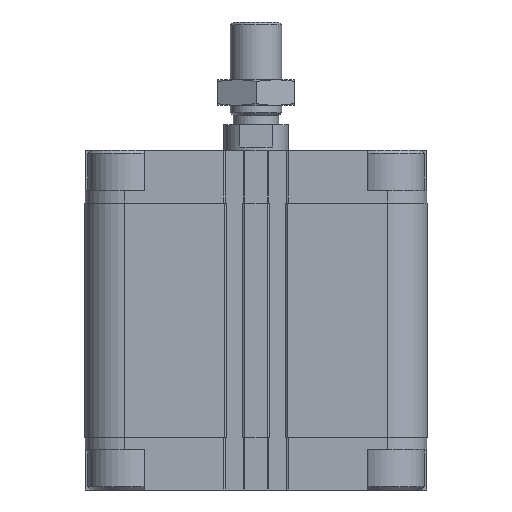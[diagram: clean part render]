
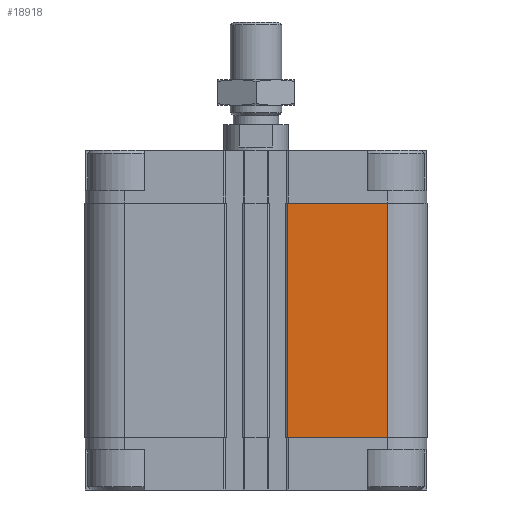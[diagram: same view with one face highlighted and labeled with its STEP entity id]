
A CAD part, front view. The second image highlights one B-rep face of the part: STEP entity #18918.
In plain terms, the highlighted planar face has unit normal (0, -1, 0).
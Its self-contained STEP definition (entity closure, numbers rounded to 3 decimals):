
#428 = EDGE_CURVE ( 'NONE', #9544, #18736, #8932, .T. ) ;
#572 = DIRECTION ( 'NONE',  ( 1., 0., 0. ) ) ;
#1118 = DIRECTION ( 'NONE',  ( 1., 0., 0. ) ) ;
#1617 = EDGE_LOOP ( 'NONE', ( #17089, #16062, #10778, #6616 ) ) ;
#4197 = FACE_OUTER_BOUND ( 'NONE', #1617, .T. ) ;
#4434 = EDGE_CURVE ( 'NONE', #9544, #14752, #7093, .T. ) ;
#4491 = LINE ( 'NONE', #9567, #18906 ) ;
#4617 = CARTESIAN_POINT ( 'NONE',  ( 9.95, -53.5, -16.5 ) ) ;
#6069 = PLANE ( 'NONE',  #9470 ) ;
#6616 = ORIENTED_EDGE ( 'NONE', *, *, #13726, .T. ) ;
#6638 = VECTOR ( 'NONE', #572, 1000. ) ;
#7093 = LINE ( 'NONE', #17070, #9315 ) ;
#7501 = CARTESIAN_POINT ( 'NONE',  ( 9.95, -53.5, -89.5 ) ) ;
#7804 = DIRECTION ( 'NONE',  ( 0., 0., 1. ) ) ;
#8672 = EDGE_CURVE ( 'NONE', #14752, #17230, #16153, .T. ) ;
#8932 = LINE ( 'NONE', #15411, #6638 ) ;
#9268 = DIRECTION ( 'NONE',  ( -1., 0., 0. ) ) ;
#9315 = VECTOR ( 'NONE', #13892, 1000. ) ;
#9470 = AXIS2_PLACEMENT_3D ( 'NONE', #7501, #11238, #9268 ) ;
#9544 = VERTEX_POINT ( 'NONE', #11569 ) ;
#9567 = CARTESIAN_POINT ( 'NONE',  ( 41., -53.5, -89.5 ) ) ;
#10778 = ORIENTED_EDGE ( 'NONE', *, *, #428, .T. ) ;
#11238 = DIRECTION ( 'NONE',  ( 0., -1., 0. ) ) ;
#11337 = CARTESIAN_POINT ( 'NONE',  ( 9.95, -53.5, -16.5 ) ) ;
#11569 = CARTESIAN_POINT ( 'NONE',  ( 9.95, -53.5, -89.5 ) ) ;
#13726 = EDGE_CURVE ( 'NONE', #18736, #17230, #4491, .T. ) ;
#13892 = DIRECTION ( 'NONE',  ( 0., 0., 1. ) ) ;
#14364 = CARTESIAN_POINT ( 'NONE',  ( 41., -53.5, -89.5 ) ) ;
#14752 = VERTEX_POINT ( 'NONE', #4617 ) ;
#15411 = CARTESIAN_POINT ( 'NONE',  ( 9.95, -53.5, -89.5 ) ) ;
#16062 = ORIENTED_EDGE ( 'NONE', *, *, #4434, .F. ) ;
#16153 = LINE ( 'NONE', #11337, #17855 ) ;
#17070 = CARTESIAN_POINT ( 'NONE',  ( 9.95, -53.5, -89.5 ) ) ;
#17089 = ORIENTED_EDGE ( 'NONE', *, *, #8672, .F. ) ;
#17230 = VERTEX_POINT ( 'NONE', #20047 ) ;
#17855 = VECTOR ( 'NONE', #1118, 1000. ) ;
#18736 = VERTEX_POINT ( 'NONE', #14364 ) ;
#18906 = VECTOR ( 'NONE', #7804, 1000. ) ;
#18918 = ADVANCED_FACE ( 'NONE', ( #4197 ), #6069, .T. ) ;
#20047 = CARTESIAN_POINT ( 'NONE',  ( 41., -53.5, -16.5 ) ) ;
